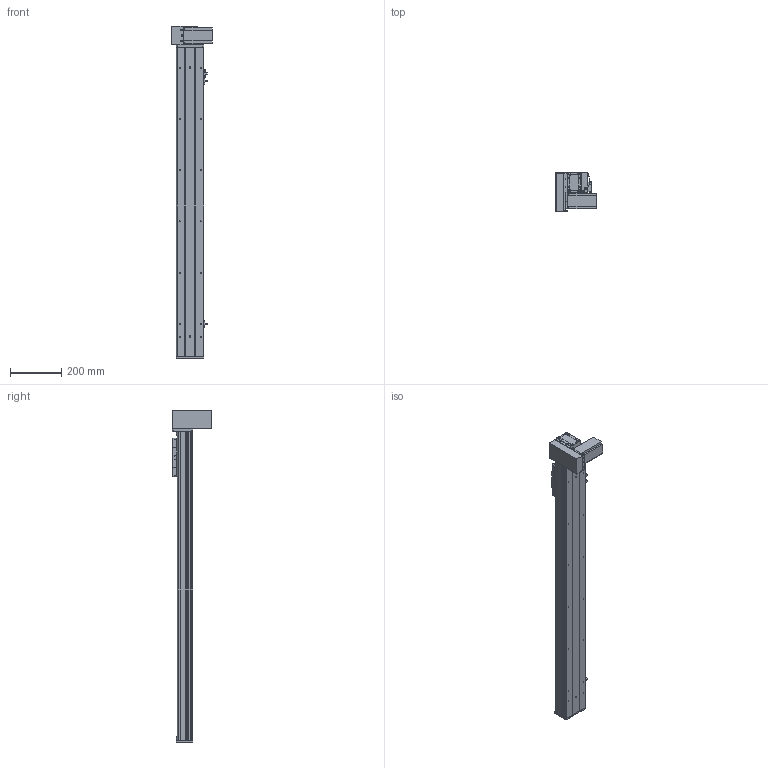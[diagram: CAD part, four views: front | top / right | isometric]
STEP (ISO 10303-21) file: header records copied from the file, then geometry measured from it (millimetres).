
FILE_DESCRIPTION (( 'STEP AP203' ), '1' );
FILE_NAME ('Y10CB-D90-S950-BM-P400W.STEP', '2020-02-16T09:00:58', ( '微软用户' ), ( '微软中国' ), 'SwSTEP 2.0', 'SolidWorks 2017', '' );
FILE_SCHEMA (( 'CONFIG_CONTROL_DESIGN' ));
Length unit declared in the file: millimetre
Products named in the file (18): Y10B-耜蚾蟀諉啣----; 0B-埴倛裔啣; Y10CB-D90-S950-BM-P400W; 10CB-詩湍-; Y10CB- 掛极耜裔啣-毀---; 0CB-雄赽釱---; Y10C---詩湍揤啣; 0Cb-俋欶---; 10CB-耜裔; 10CB9-掛极; Y10B-々湍喘謫眊楊擘啣--; Y135C-陔俋离換覜結え-; 0B-萇儂楊擘啣; Y100-135俋离換覜ん--; san松下电机400不带刹车----; Y10B--々湍喘謫眊--666; 00B-俋欶BM--; 0B-源倛裔啣
Assembly tree (21 placements, depth 2):
  Y10CB-D90-S950-BM-P400W
    0CB-雄赽釱---
    0Cb-俋欶---
    Y10B-々湍喘謫眊楊擘啣--
    0B-萇儂楊擘啣
    san松下电机400不带刹车----
    0B-源倛裔啣
    0B-埴倛裔啣
    10CB-詩湍-
    Y10CB- 掛极耜裔啣-毀---  x2
    Y10C---詩湍揤啣  x2
    10CB9-掛极
    10CB-耜裔
    Y135C-陔俋离換覜結え-
    Y100-135俋离換覜ん--  x3
    Y10B--々湍喘謫眊--666
    00B-俋欶BM--
    Y10B-耜蚾蟀諉啣----
Bounding box: 157 x 156 x 1296 mm (x, y, z)
Volume: 3048525.2 mm3; surface area: 1367613.1 mm2
Topology: 21 solids, 21 shells, 990 faces, 2643 edges, 1730 vertices
Faces by surface type: cylinder 489, plane 477, cone 24
Entity records: 30912 total; most frequent: CARTESIAN_POINT 5469, DIRECTION 4998, ORIENTED_EDGE 4756, EDGE_CURVE 2378, AXIS2_PLACEMENT_3D 1789, VERTEX_POINT 1556, VECTOR 1420, LINE 1420
